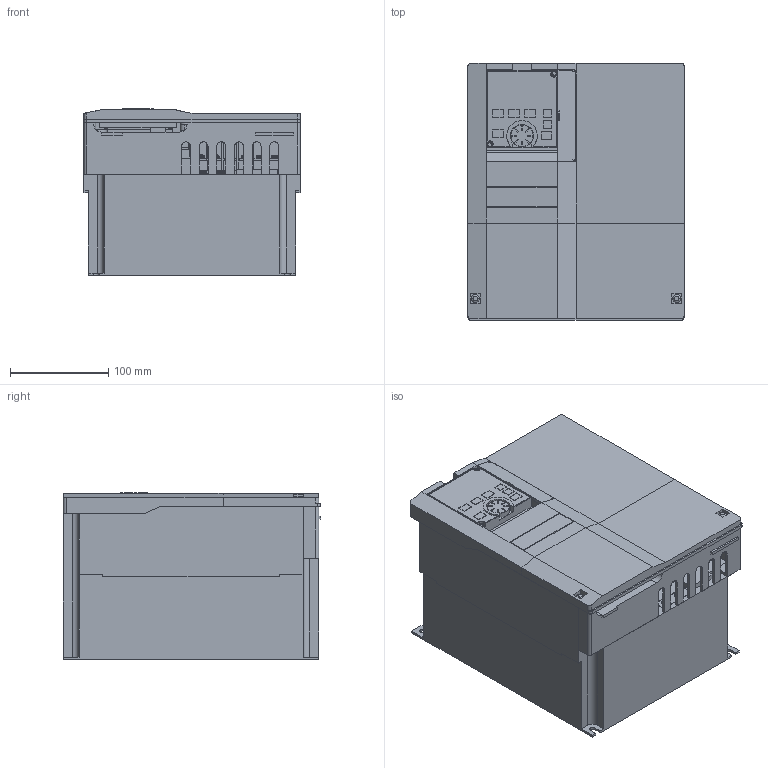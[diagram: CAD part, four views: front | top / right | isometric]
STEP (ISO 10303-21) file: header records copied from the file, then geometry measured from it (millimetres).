
FILE_DESCRIPTION((''),'2;1');
FILE_NAME('3D-INV-A8-01_05_ASM','2014-01-20T',('PZ79677'),(''),'PRO/ENGINEER BY PARAMETRIC TECHNOLOGY CORPORATION, 2011490','PRO/ENGINEER BY PARAMETRIC TECHNOLOGY CORPORATION, 2011490','');
FILE_SCHEMA(('CONFIG_CONTROL_DESIGN'));
Length unit declared in the file: millimetre
Products named in the file (20): 3D-BASE-A8-01_05; 3D-POWER-A8-01_05_ASM; 3D-FAN-60; 3D-FAN_COV-A8-01_05; 3D-TA-A8; 3D-A8-TA_ASM; 3D-SW-PW-P-M4X8; 3D-DOT-R1S1-A8-01_05; 3D-DOT-P1-P-A8-01_05; 3D-DOT-PR-A8-01_05; 3D-TE-M4X10-KAKU12X9-01_05; 3D-TE_NEJI-M4X10-KAKU9-01_05; 3D-TE-A8-02_05_ASM; 3D-SEN_COV-A8-01_05; 3D-COV_UPR-A8-01_06; 3D-DU_ASSY-A8; 3D-IF_COV-A80; 3D-COV_UPR-A8-01_06_ASM; 3D-COV_LWR-A8-01_05; 3D-INV-A8-01_05_ASM
Assembly tree (33 placements, depth 3):
  3D-INV-A8-01_05_ASM
    3D-POWER-A8-01_05_ASM
      3D-BASE-A8-01_05
    3D-FAN-60  x2
    3D-FAN_COV-A8-01_05
    3D-A8-TA_ASM
      3D-TA-A8
    3D-SW-PW-P-M4X8  x2
    3D-TE-A8-02_05_ASM
      3D-DOT-R1S1-A8-01_05  x2
      3D-DOT-P1-P-A8-01_05
      3D-DOT-PR-A8-01_05
      3D-TE-M4X10-KAKU12X9-01_05  x11
      3D-TE_NEJI-M4X10-KAKU9-01_05  x2
    3D-SEN_COV-A8-01_05
    3D-COV_UPR-A8-01_06_ASM
      3D-COV_UPR-A8-01_06
      3D-DU_ASSY-A8
      3D-IF_COV-A80
    3D-COV_LWR-A8-01_05
Bounding box: 220 x 262 x 170 mm (x, y, z)
Volume: 7540117.4 mm3; surface area: 658496.8 mm2
Topology: 30 solids, 33 shells, 2054 faces, 5292 edges, 3462 vertices
Faces by surface type: plane 1557, cylinder 389, torus 52, sphere 40, cone 16
Entity records: 53851 total; most frequent: CARTESIAN_POINT 9402, ORIENTED_EDGE 9102, DIRECTION 8901, EDGE_CURVE 4551, VECTOR 3835, LINE 3835, VERTEX_POINT 3008, AXIS2_PLACEMENT_3D 2533
